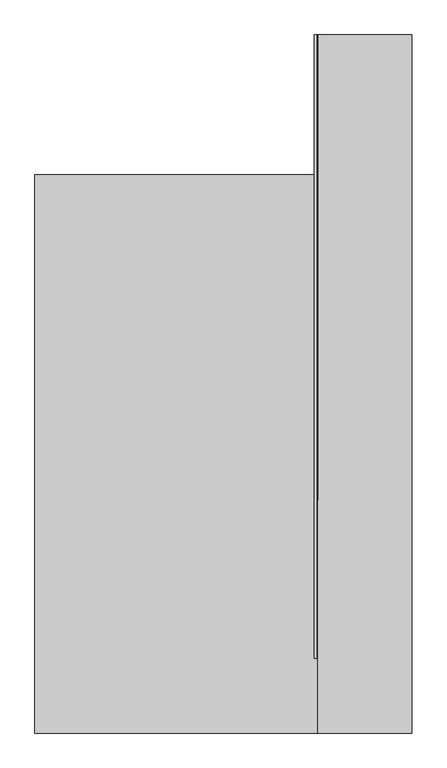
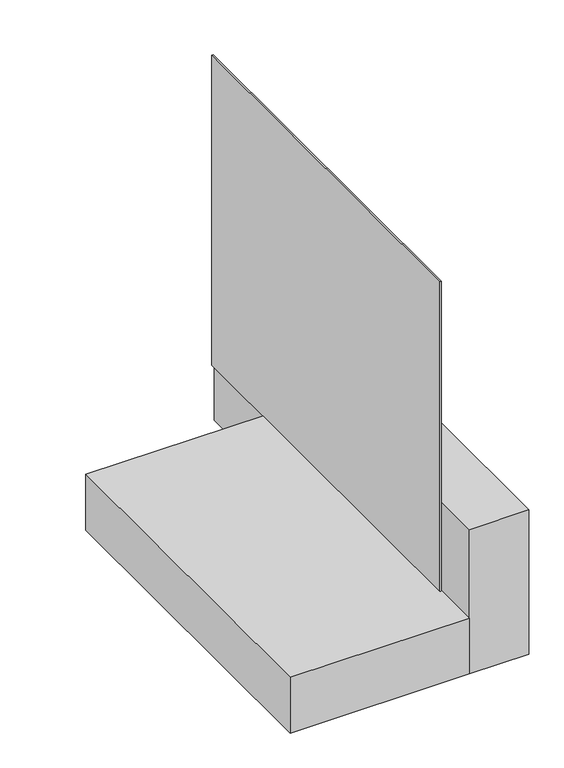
"""IFC4 building model written with IfcOpenShell, lengths in millimetres: proxy geometry, IMPER:IMPER:433934 : IMPER:IMPER:433934."""

from ifc_helpers import new_model, si_unit, point, frame, frame_2d, origin, place, context, project, spatial, polyline, circle_curve, trimmed, segment, composite_curve, outline, extrude, source, transform, mapped, element, save


def generic_models_c4fbfd9c(model_context):
    return source(origin(), model_context, "Body", "SweptSolid", [
        extrude(outline(polyline([(-351.9704105, 145.8700195), (-341.9979716, 145.8700195), (-341.9979716, -2533.3225154), (-351.9704105, -2533.3225154), (-351.9704105, 145.8700195)])), frame((0.0, 0.0, -2.523798), z_axis=(0.0, 0.0, 1.0), x_axis=(1.0, 0.0, 0.0)), (0.0, 0.0, 1.0), 2222.530926),
        extrude(outline(polyline([(-336.9315394, -2854.1299805), (-1552.7804486, -2854.1299805), (-1552.7804486, -454.1299805), (-336.9315394, -454.1299805), (-336.9315394, -2854.1299805)])), frame((0.0, 0.0, -402.523798), z_axis=(0.0, 0.0, 1.0), x_axis=(1.0, 0.0, 0.0)), (0.0, 0.0, 1.0), 400.0),
        extrude(outline(polyline([(67.0408996, -2854.1299805), (-336.9315394, -2854.1299805), (-336.9315394, 145.8700195), (67.0408996, 145.8700195), (67.0408996, -2854.1299805)])), frame((0.0, 0.0, -402.523798), z_axis=(0.0, 0.0, 1.0), x_axis=(1.0, 0.0, 0.0)), (0.0, 0.0, 1.0), 1034.8744031),
        extrude(outline(composite_curve([segment(polyline([(1314.1648489, -340.9979716), (-2.523798, -340.9979716)]), True, "CONTINUOUS"), segment(trimmed(circle_curve(frame_2d((-2.523798, -330.9979716)), 10.0), [point((-2.523798, -340.9979716))], [point((-2.523798, -320.9979716))], False, "CARTESIAN"), True, "CONTINUOUS"), segment(trimmed(circle_curve(frame_2d((-2.523798, -327.5189474)), 6.5209758), [point((-2.523798, -320.9979716))], [point((-2.523798, -334.0399232))], False, "CARTESIAN"), True, "CONTINUOUS"), segment(trimmed(circle_curve(frame_2d((-2.523798, -330.7794353)), 3.2604879), [point((-2.523798, -334.0399232))], [point((-2.523798, -327.5189474))], False, "CARTESIAN"), True, "CONTINUOUS"), segment(polyline([(-2.523798, -327.5189474), (-2.523798, -330.5189474)]), True, "CONTINUOUS"), segment(trimmed(circle_curve(frame_2d((-2.523798, -330.7794353)), 0.2604879), [point((-2.523798, -330.5189474))], [point((-2.523798, -331.0399232))], True, "CARTESIAN"), True, "CONTINUOUS"), segment(trimmed(circle_curve(frame_2d((-2.523798, -327.5189474)), 3.5209758), [point((-2.523798, -331.0399232))], [point((-2.523798, -323.9979716))], True, "CARTESIAN"), True, "CONTINUOUS"), segment(trimmed(circle_curve(frame_2d((-2.523798, -330.9979716)), 7.0), [point((-2.523798, -323.9979716))], [point((-2.523798, -337.9979716))], True, "CARTESIAN"), True, "CONTINUOUS"), segment(polyline([(-2.523798, -337.9979716), (1314.1648489, -337.9979716), (1314.1648489, -340.9979716)]), True, "CONTINUOUS")], self_intersect=False)), frame((0.0, -1854.1299805, 0.0), z_axis=(0.0, 1.0, 0.0), x_axis=(0.0, 0.0, 1.0)), (0.0, 0.0, 1.0), 2000.0),
        extrude(outline(polyline([(-340.9979716, 145.8700195), (-340.9979716, -2254.1299805), (-341.9979716, -2254.1299805), (-341.9979716, 145.8700195), (-340.9979716, 145.8700195)])), frame((0.0, 0.0, -2.523798), z_axis=(0.0, 0.0, 1.0), x_axis=(1.0, 0.0, 0.0)), (0.0, 0.0, 1.0), 1965.7083629),
    ])


if __name__ == "__main__":
    model = new_model("IFC4")
    model_context = context("Model", 3, world=origin())
    ifc_project = project(units=[si_unit("LENGTHUNIT", "METRE", prefix="MILLI")], contexts=[model_context])
    site = spatial("IfcSite", under=ifc_project)
    building = spatial("IfcBuilding", under=site)
    placement = place(None, origin())
    generic_models_shape = generic_models_c4fbfd9c(model_context)
    element("IfcBuildingElementProxy", 1, Name="IMPER:IMPER:433934 : IMPER:IMPER:433934", ObjectType="IMPER:IMPER:433934 : IMPER:IMPER:433934", at=placement, inside=building, context=model_context, shape_type="MappedRepresentation", body=[
        mapped(generic_models_shape, transform((0.0, 0.0, 0.0), x_axis=(1.0, 0.0, 0.0), y_axis=(0.0, 1.0, 0.0), z_axis=(0.0, 0.0, 1.0))),
    ])
    save(model, "model.ifc")
